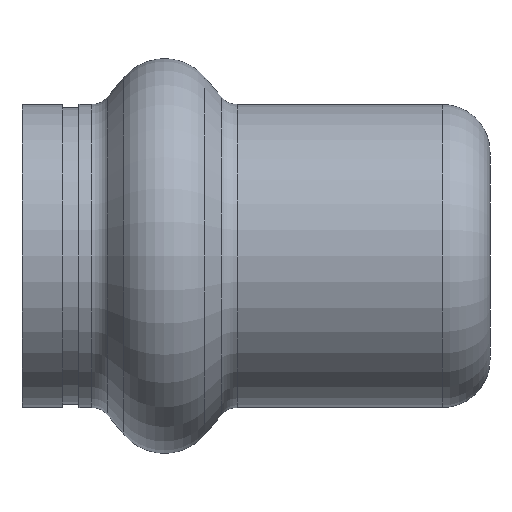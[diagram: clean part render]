
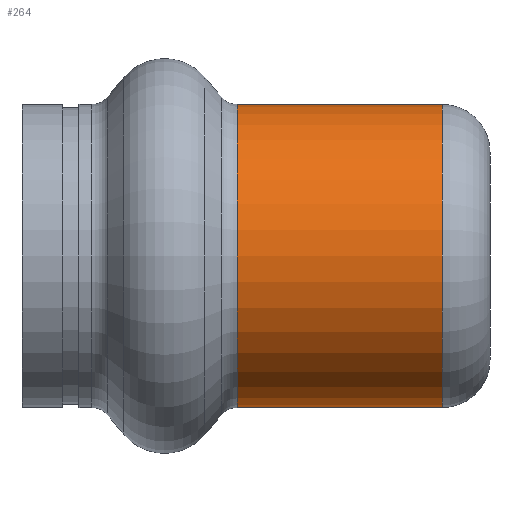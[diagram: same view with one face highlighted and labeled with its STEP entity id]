
A CAD part, front view. The second image highlights one B-rep face of the part: STEP entity #264.
In plain terms, the highlighted cylindrical face has radius 7.45 mm (diameter 14.9 mm), a partial arc.
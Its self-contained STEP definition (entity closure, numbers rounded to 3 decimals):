
#12 = CARTESIAN_POINT ( 'NONE',  ( 23.9, 0., 7.45 ) ) ;
#24 = CARTESIAN_POINT ( 'NONE',  ( -7.298, 0., 0. ) ) ;
#36 = AXIS2_PLACEMENT_3D ( 'NONE', #872, #896, #941 ) ;
#94 = DIRECTION ( 'NONE',  ( -1., 0., 0. ) ) ;
#99 = ORIENTED_EDGE ( 'NONE', *, *, #1036, .T. ) ;
#121 = DIRECTION ( 'NONE',  ( 0., 0., 1. ) ) ;
#158 = LINE ( 'NONE', #1102, #1325 ) ;
#223 = CARTESIAN_POINT ( 'NONE',  ( 23.9, 0., -7.45 ) ) ;
#241 = LINE ( 'NONE', #1404, #636 ) ;
#264 = ADVANCED_FACE ( 'NONE', ( #396 ), #1185, .T. ) ;
#351 = CARTESIAN_POINT ( 'NONE',  ( 13.817, 0., 7.45 ) ) ;
#372 = DIRECTION ( 'NONE',  ( -1., 0., 0. ) ) ;
#396 = FACE_OUTER_BOUND ( 'NONE', #997, .T. ) ;
#398 = ORIENTED_EDGE ( 'NONE', *, *, #1374, .T. ) ;
#423 = CARTESIAN_POINT ( 'NONE',  ( 23.9, 0., 0. ) ) ;
#451 = DIRECTION ( 'NONE',  ( 0., 0., 1. ) ) ;
#551 = CIRCLE ( 'NONE', #854, 7.45 ) ;
#635 = VERTEX_POINT ( 'NONE', #351 ) ;
#636 = VECTOR ( 'NONE', #731, 1000. ) ;
#637 = ORIENTED_EDGE ( 'NONE', *, *, #1112, .F. ) ;
#703 = CIRCLE ( 'NONE', #36, 7.45 ) ;
#731 = DIRECTION ( 'NONE',  ( -1., 0., 0. ) ) ;
#801 = VERTEX_POINT ( 'NONE', #223 ) ;
#854 = AXIS2_PLACEMENT_3D ( 'NONE', #423, #372, #451 ) ;
#855 = AXIS2_PLACEMENT_3D ( 'NONE', #24, #1202, #121 ) ;
#872 = CARTESIAN_POINT ( 'NONE',  ( 13.817, 0., 0. ) ) ;
#896 = DIRECTION ( 'NONE',  ( 1., 0., 0. ) ) ;
#941 = DIRECTION ( 'NONE',  ( 0., 0., -1. ) ) ;
#994 = VERTEX_POINT ( 'NONE', #1188 ) ;
#997 = EDGE_LOOP ( 'NONE', ( #637, #398, #1198, #99 ) ) ;
#1036 = EDGE_CURVE ( 'NONE', #635, #994, #703, .T. ) ;
#1055 = VERTEX_POINT ( 'NONE', #12 ) ;
#1089 = EDGE_CURVE ( 'NONE', #1055, #635, #158, .T. ) ;
#1102 = CARTESIAN_POINT ( 'NONE',  ( -7.298, 0., 7.45 ) ) ;
#1112 = EDGE_CURVE ( 'NONE', #801, #994, #241, .T. ) ;
#1185 = CYLINDRICAL_SURFACE ( 'NONE', #855, 7.45 ) ;
#1188 = CARTESIAN_POINT ( 'NONE',  ( 13.817, 0., -7.45 ) ) ;
#1198 = ORIENTED_EDGE ( 'NONE', *, *, #1089, .T. ) ;
#1202 = DIRECTION ( 'NONE',  ( -1., 0., 0. ) ) ;
#1325 = VECTOR ( 'NONE', #94, 1000. ) ;
#1374 = EDGE_CURVE ( 'NONE', #801, #1055, #551, .T. ) ;
#1404 = CARTESIAN_POINT ( 'NONE',  ( -7.298, 0., -7.45 ) ) ;
